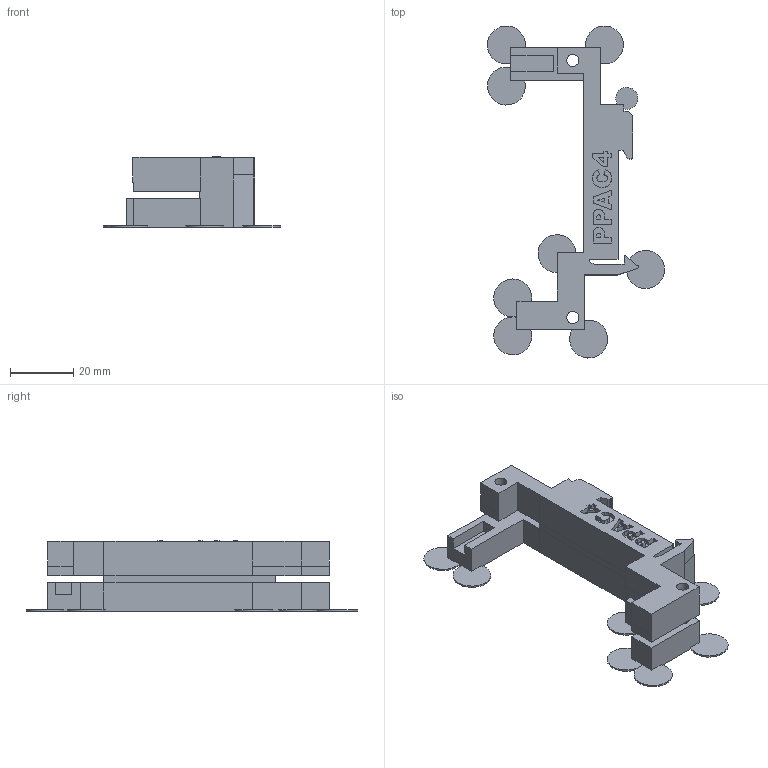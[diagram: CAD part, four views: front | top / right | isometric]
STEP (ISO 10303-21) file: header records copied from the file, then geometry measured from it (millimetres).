
FILE_DESCRIPTION(/* description */ (''),/* implementation_level */ '2;1');
FILE_NAME(/* name */ '/Volumes/Data/LulzBot/Projects To Print/din Rail PPAC4 v12.step',/* time_stamp */ '2017-05-06T16:46:23-07:00',/* author */ (''),/* organization */ (''),/* preprocessor_version */ 'ST-DEVELOPER v16.5',/* originating_system */ 'Autodesk Translation Framework v5.2.0.2920',/* authorisation */ '');
FILE_SCHEMA (('AUTOMOTIVE_DESIGN { 1 0 10303 214 3 1 1 }'));
Length unit declared in the file: millimetre
Products named in the file (1): din Rail PPAC4 v12
Bounding box: 55.98 x 104.99 x 22.4 mm (x, y, z)
Volume: 25401.3 mm3; surface area: 13005.3 mm2
Topology: 1 solids, 2 shells, 238 faces, 669 edges, 442 vertices
Faces by surface type: plane 186, bspline 35, cylinder 17
Full cylindrical faces by diameter (mm): 3.81 x6
Entity records: 8003 total; most frequent: CARTESIAN_POINT 2069, ORIENTED_EDGE 1326, DIRECTION 1035, EDGE_CURVE 659, LINE 551, VECTOR 551, VERTEX_POINT 438, EDGE_LOOP 261
